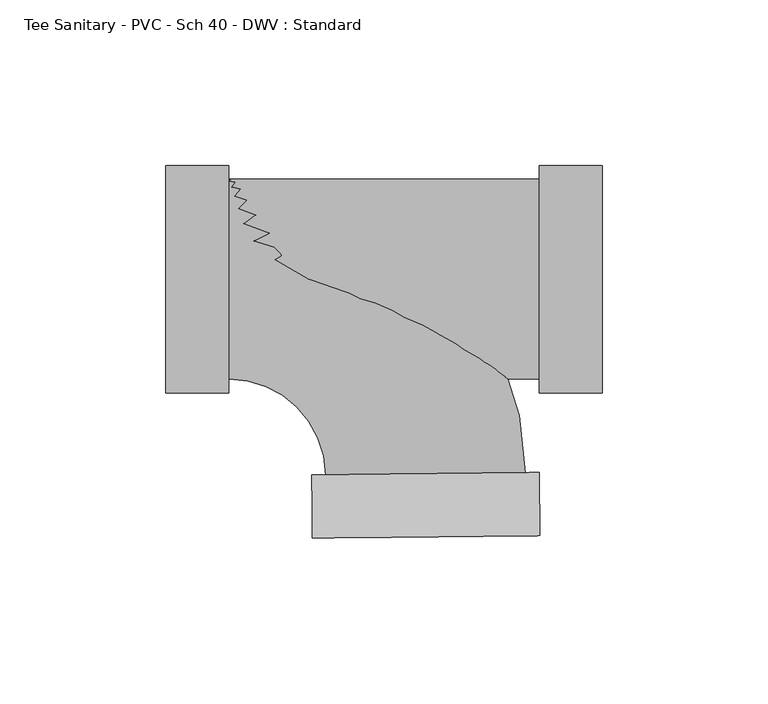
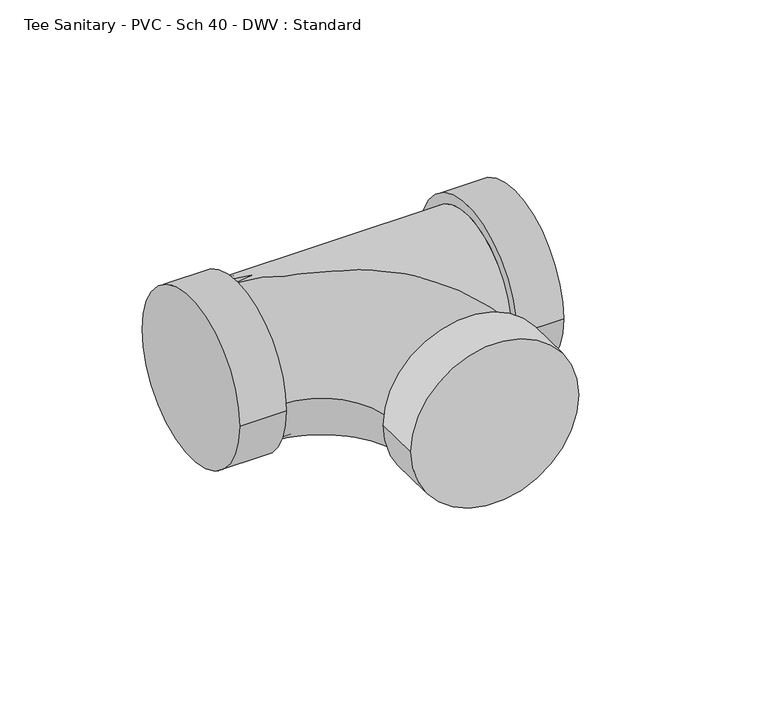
"""IFC4 building model written with IfcOpenShell, lengths in millimetres: pipe fitting geometry, Tee Sanitary - PVC - Sch 40 - DWV : Standard."""

from ifc_helpers import new_model, si_unit, point, frame, origin, place, context, project, spatial, circle_curve, ellipse_curve, trimmed, source, transform, mapped, element, save
from ifc_brep_helpers import plane_surface, cylinder_surface, revolved_surface, advanced_brep


def tee_sanitary_pvc_sch_40_dwv_standard_bd882a60(model_context):
    return source(origin(), model_context, "Body", "AdvancedBrep", [
        advanced_brep(
        [(-58.7502, -30.1625, 0.0), (-58.7502, 30.1625, 0.0), (-29.5489157, -59.0611885, 0.0), (30.7728118, -58.4328372, 0.0), (35.1239132, -77.4385467, 0.0), (-33.5031636, -78.1534121, 0.0), (34.9254865, -58.3895802, 0.0), (-33.7015904, -59.1044455, 0.0)],
        [
            (0, 1, circle_curve(frame((-58.7502, 0.0, 0.0), z_axis=(-1.0, 0.0, 0.0), x_axis=(0.0, 1.0, 0.0)), 30.1625)),
            (1, 0, circle_curve(frame((-58.7502, 0.0, 0.0), z_axis=(-1.0, 0.0, 0.0), x_axis=(0.0, 1.0, 0.0)), 30.1625)),
            (0, 2, circle_curve(frame((-58.7502, -59.3653686, 0.0), z_axis=(0.0, 0.0, -1.0), x_axis=(0.0, 1.0, 0.0)), 29.2028686)),
            (2, 3, circle_curve(frame((0.6119481, -58.7470129, 0.0), z_axis=(-0.01041610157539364, 0.9999457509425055, 0.0), x_axis=(0.9999457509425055, 0.01041610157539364, 0.0)), 30.1625)),
            (3, 1, circle_curve(frame((-58.7502, -59.3653686, 0.0), z_axis=(0.0, 0.0, 1.0), x_axis=(0.0, 1.0, 0.0)), 89.5278686)),
            (3, 2, circle_curve(frame((0.6119481, -58.7470129, 0.0), z_axis=(-0.01041610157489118, 0.9999457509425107, 0.0), x_axis=(0.9999457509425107, 0.01041610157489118, 0.0)), 30.1625)),
            (4, 5, circle_curve(frame((0.8103748, -77.7959794, 0.0), z_axis=(0.010416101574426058, -0.9999457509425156, 0.0), x_axis=(-0.9999457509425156, -0.010416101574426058, 0.0)), 34.3154)),
            (5, 4, circle_curve(frame((0.8103748, -77.7959794, 0.0), z_axis=(0.010416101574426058, -0.9999457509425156, 0.0), x_axis=(-0.9999457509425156, -0.010416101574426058, 0.0)), 34.3154)),
            (6, 7, circle_curve(frame((0.6119481, -58.7470129, 0.0), z_axis=(-0.010416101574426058, 0.9999457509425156, 0.0), x_axis=(-0.9999457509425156, -0.010416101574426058, 0.0)), 34.3154)),
            (7, 6, circle_curve(frame((0.6119481, -58.7470129, 0.0), z_axis=(-0.010416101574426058, 0.9999457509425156, 0.0), x_axis=(-0.9999457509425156, -0.010416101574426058, 0.0)), 34.3154)),
            (4, 6),
            (7, 5),
        ],
        [
            plane_surface(frame((-58.7502, 0.0, 0.0), z_axis=(-1.0, 0.0, 0.0), x_axis=(0.0, 0.0, 1.0))),
            revolved_surface(trimmed(ellipse_curve(frame((-58.7502, 0.0, 0.0), z_axis=(-1.0, 0.0, 0.0), x_axis=(0.0, 1.0, 0.0)), 30.1625, 30.1625), [point((-58.7502, -30.1625, 0.0))], [point((-58.7502, 30.1625, 0.0))], True, "CARTESIAN"), (-58.7502, -59.3653686, 0.0), (0.0, 0.0, -1.0)),
            revolved_surface(trimmed(ellipse_curve(frame((-58.7502, 0.0, 0.0), z_axis=(-1.0, 0.0, 0.0), x_axis=(0.0, 1.0, 0.0)), 30.1625, 30.1625), [point((-58.7502, 30.1625, 0.0))], [point((-58.7502, -30.1625, 0.0))], True, "CARTESIAN"), (-58.7502, -59.3653686, 0.0), (0.0, 0.0, -1.0)),
            plane_surface(frame((0.8103748, -77.7959794, 0.0), z_axis=(0.010416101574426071, -0.9999457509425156, 0.0), x_axis=(0.0, 0.0, 1.0))),
            plane_surface(frame((0.6119481, -58.7470129, 0.0), z_axis=(-0.010416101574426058, 0.9999457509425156, 0.0), x_axis=(0.0, 0.0, 1.0))),
            cylinder_surface(frame((0.8103748, -77.7959794, 0.0), z_axis=(0.010416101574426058, -0.9999457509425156, 0.0), x_axis=(-0.9999457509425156, -0.010416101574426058, 0.0)), 34.3154),
        ],
        [
            (0, [[1, 2]]),
            (1, [[-1, 3, 4, 5]]),
            (2, [[-2, -5, 6, -3]]),
            (3, [[7, 8]]),
            (4, [[9, 10], [-4, -6]]),
            (5, [[-7, 11, -10, 12]]),
            (5, [[-8, -12, -9, -11]]),
        ],
    ),
        advanced_brep(
        [(-58.7502, -30.1625, 0.0), (34.9254865, -30.1625, 0.0), (34.9254865, 30.1625, 0.0), (-58.7502, 30.1625, 0.0), (34.9254865, -34.3154, 0.0), (34.9254865, 34.3154, 0.0), (53.9754865, -34.3154, 0.0), (53.9754865, 34.3154, 0.0), (-77.8002, -34.3154, 0.0), (-77.8002, 34.3154, 0.0), (-58.7502, -34.3154, 0.0), (-58.7502, 34.3154, 0.0)],
        [
            (0, 1),
            (1, 2, circle_curve(frame((34.9254865, 0.0, 0.0), z_axis=(-1.0, 0.0, 0.0), x_axis=(0.0, 1.0, 0.0)), 30.1625)),
            (2, 3),
            (3, 0, circle_curve(frame((-58.7502, 0.0, 0.0), z_axis=(1.0, 0.0, 0.0), x_axis=(0.0, 1.0, 0.0)), 30.1625)),
            (0, 3, circle_curve(frame((-58.7502, 0.0, 0.0), z_axis=(1.0, 0.0, 0.0), x_axis=(0.0, 1.0, 0.0)), 30.1625)),
            (2, 1, circle_curve(frame((34.9254865, 0.0, 0.0), z_axis=(-1.0, 0.0, 0.0), x_axis=(0.0, 1.0, 0.0)), 30.1625)),
            (4, 5, circle_curve(frame((34.9254865, 0.0, 0.0), z_axis=(-1.0, 0.0, 0.0), x_axis=(0.0, 1.0, 0.0)), 34.3154)),
            (5, 4, circle_curve(frame((34.9254865, 0.0, 0.0), z_axis=(-1.0, 0.0, 0.0), x_axis=(0.0, 1.0, 0.0)), 34.3154)),
            (6, 7, circle_curve(frame((53.9754865, 0.0, 0.0), z_axis=(1.0, 0.0, 0.0), x_axis=(0.0, 1.0, 0.0)), 34.3154)),
            (7, 6, circle_curve(frame((53.9754865, 0.0, 0.0), z_axis=(1.0, 0.0, 0.0), x_axis=(0.0, 1.0, 0.0)), 34.3154)),
            (4, 6),
            (7, 5),
            (8, 9, circle_curve(frame((-77.8002, 0.0, 0.0), z_axis=(-1.0, 0.0, 0.0), x_axis=(0.0, 1.0, 0.0)), 34.3154)),
            (9, 8, circle_curve(frame((-77.8002, 0.0, 0.0), z_axis=(-1.0, 0.0, 0.0), x_axis=(0.0, 1.0, 0.0)), 34.3154)),
            (10, 11, circle_curve(frame((-58.7502, 0.0, 0.0), z_axis=(1.0, 0.0, 0.0), x_axis=(0.0, 1.0, 0.0)), 34.3154)),
            (11, 10, circle_curve(frame((-58.7502, 0.0, 0.0), z_axis=(1.0, 0.0, 0.0), x_axis=(0.0, 1.0, 0.0)), 34.3154)),
            (8, 10),
            (11, 9),
        ],
        [
            cylinder_surface(frame((-58.7502, 0.0, 0.0), z_axis=(-1.0, 0.0, 0.0), x_axis=(0.0, 1.0, 0.0)), 30.1625),
            plane_surface(frame((34.9254865, 0.0, 0.0), z_axis=(-1.0, 0.0, 0.0), x_axis=(0.0, 0.0, 1.0))),
            plane_surface(frame((53.9754865, 0.0, 0.0), z_axis=(1.0, 0.0, 0.0), x_axis=(0.0, 0.0, 1.0))),
            cylinder_surface(frame((34.9254865, 0.0, 0.0), z_axis=(-1.0, 0.0, 0.0), x_axis=(0.0, 1.0, 0.0)), 34.3154),
            plane_surface(frame((-77.8002, 0.0, 0.0), z_axis=(-1.0, 0.0, 0.0), x_axis=(0.0, 0.0, 1.0))),
            plane_surface(frame((-58.7502, 0.0, 0.0), z_axis=(1.0, 0.0, 0.0), x_axis=(0.0, 0.0, 1.0))),
            cylinder_surface(frame((-77.8002, 0.0, 0.0), z_axis=(-1.0, 0.0, 0.0), x_axis=(0.0, 1.0, 0.0)), 34.3154),
        ],
        [
            (0, [[1, 2, 3, 4]]),
            (0, [[-1, 5, -3, 6]]),
            (1, [[7, 8], [-2, -6]]),
            (2, [[9, 10]]),
            (3, [[-7, 11, -10, 12]]),
            (3, [[-8, -12, -9, -11]]),
            (4, [[13, 14]]),
            (5, [[15, 16], [-4, -5]]),
            (6, [[-13, 17, -16, 18]]),
            (6, [[-14, -18, -15, -17]]),
        ],
    ),
    ])


if __name__ == "__main__":
    model = new_model("IFC4")
    model_context = context("Model", 3, world=origin())
    ifc_project = project(units=[si_unit("LENGTHUNIT", "METRE", prefix="MILLI")], contexts=[model_context])
    site = spatial("IfcSite", under=ifc_project)
    building = spatial("IfcBuilding", under=site)
    placement = place(None, origin())
    tee_sanitary_pvc_sch_40_dwv_standard_shape = tee_sanitary_pvc_sch_40_dwv_standard_bd882a60(model_context)
    element("IfcPipeFitting", 1, ObjectType="Tee Sanitary - PVC - Sch 40 - DWV : Standard", at=placement, inside=building, context=model_context, shape_type="MappedRepresentation", body=[
        mapped(tee_sanitary_pvc_sch_40_dwv_standard_shape, transform((0.0, 0.0, 0.0), x_axis=(1.0, 0.0, 0.0), y_axis=(0.0, 1.0, 0.0), z_axis=(0.0, 0.0, 1.0))),
    ])
    save(model, "model.ifc")
